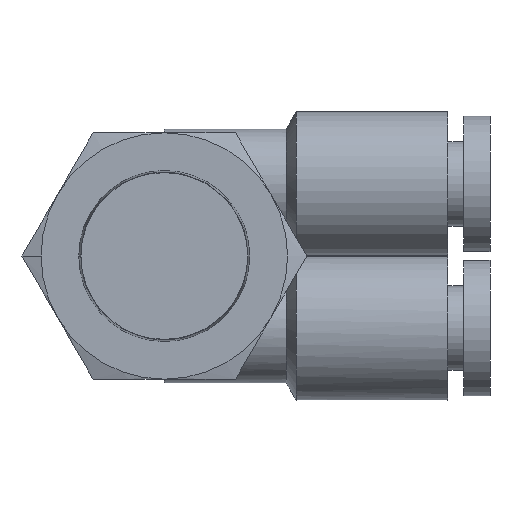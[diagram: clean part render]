
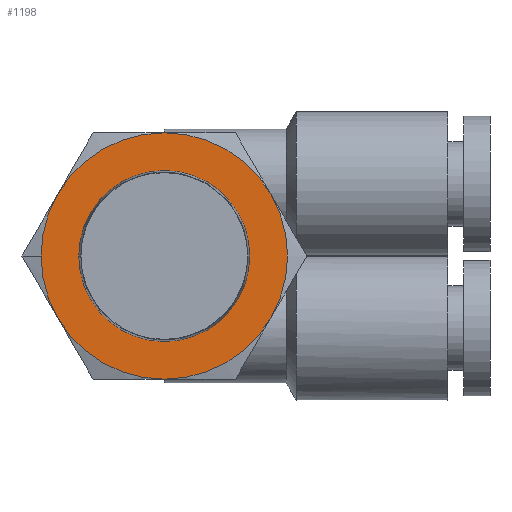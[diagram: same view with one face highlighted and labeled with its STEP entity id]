
A CAD part, front view. The second image highlights one B-rep face of the part: STEP entity #1198.
In plain terms, the highlighted planar face has unit normal (0, -1, 0).
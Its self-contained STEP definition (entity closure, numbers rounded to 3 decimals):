
#87 = EDGE_LOOP ( 'NONE', ( #243, #3224, #836, #3993, #1415, #2664, #3033 ) ) ;
#88 = CARTESIAN_POINT ( 'NONE',  ( 0., 0., 0. ) ) ;
#144 = DIRECTION ( 'NONE',  ( 0., -1., 0. ) ) ;
#171 = EDGE_CURVE ( 'NONE', #426, #1619, #2271, .T. ) ;
#243 = ORIENTED_EDGE ( 'NONE', *, *, #3518, .T. ) ;
#252 = AXIS2_PLACEMENT_3D ( 'NONE', #756, #1179, #1132 ) ;
#257 = VERTEX_POINT ( 'NONE', #3490 ) ;
#327 = PLANE ( 'NONE',  #4096 ) ;
#329 = CARTESIAN_POINT ( 'NONE',  ( 0., 0., 0. ) ) ;
#348 = VERTEX_POINT ( 'NONE', #372 ) ;
#355 = DIRECTION ( 'NONE',  ( 1., 0., 0. ) ) ;
#372 = CARTESIAN_POINT ( 'NONE',  ( 6.062, 0., 3.5 ) ) ;
#426 = VERTEX_POINT ( 'NONE', #3983 ) ;
#552 = ORIENTED_EDGE ( 'NONE', *, *, #171, .F. ) ;
#557 = EDGE_CURVE ( 'NONE', #348, #1346, #1144, .T. ) ;
#595 = CIRCLE ( 'NONE', #3828, 7. ) ;
#756 = CARTESIAN_POINT ( 'NONE',  ( 0., 0., 0. ) ) ;
#836 = ORIENTED_EDGE ( 'NONE', *, *, #557, .T. ) ;
#900 = DIRECTION ( 'NONE',  ( 1., 0., 0. ) ) ;
#1071 = CARTESIAN_POINT ( 'NONE',  ( -6.062, 0., -3.5 ) ) ;
#1132 = DIRECTION ( 'NONE',  ( 1., 0., 0. ) ) ;
#1144 = CIRCLE ( 'NONE', #1366, 7. ) ;
#1179 = DIRECTION ( 'NONE',  ( 0., -1., 0. ) ) ;
#1198 = ADVANCED_FACE ( 'NONE', ( #1966, #3396 ), #327, .F. ) ;
#1201 = DIRECTION ( 'NONE',  ( 0., -1., 0. ) ) ;
#1217 = AXIS2_PLACEMENT_3D ( 'NONE', #2440, #2811, #2155 ) ;
#1346 = VERTEX_POINT ( 'NONE', #1868 ) ;
#1366 = AXIS2_PLACEMENT_3D ( 'NONE', #3008, #4069, #355 ) ;
#1373 = DIRECTION ( 'NONE',  ( 0., -1., 0. ) ) ;
#1380 = AXIS2_PLACEMENT_3D ( 'NONE', #1833, #144, #2838 ) ;
#1410 = EDGE_CURVE ( 'NONE', #1753, #4135, #4232, .T. ) ;
#1412 = CARTESIAN_POINT ( 'NONE',  ( 0., 0., -7. ) ) ;
#1415 = ORIENTED_EDGE ( 'NONE', *, *, #4286, .T. ) ;
#1438 = CARTESIAN_POINT ( 'NONE',  ( 0., 0., 0. ) ) ;
#1503 = DIRECTION ( 'NONE',  ( 0., -1., 0. ) ) ;
#1521 = CIRCLE ( 'NONE', #3684, 7. ) ;
#1523 = CARTESIAN_POINT ( 'NONE',  ( 0., 0., 0. ) ) ;
#1619 = VERTEX_POINT ( 'NONE', #2272 ) ;
#1636 = VERTEX_POINT ( 'NONE', #2317 ) ;
#1753 = VERTEX_POINT ( 'NONE', #2749 ) ;
#1833 = CARTESIAN_POINT ( 'NONE',  ( 0., 0., 0. ) ) ;
#1868 = CARTESIAN_POINT ( 'NONE',  ( 0., 0., 7. ) ) ;
#1901 = EDGE_CURVE ( 'NONE', #4135, #4230, #3011, .T. ) ;
#1904 = ORIENTED_EDGE ( 'NONE', *, *, #2092, .F. ) ;
#1966 = FACE_OUTER_BOUND ( 'NONE', #87, .T. ) ;
#2092 = EDGE_CURVE ( 'NONE', #1619, #426, #4036, .T. ) ;
#2155 = DIRECTION ( 'NONE',  ( 1., 0., 0. ) ) ;
#2271 = CIRCLE ( 'NONE', #2830, 4.1 ) ;
#2272 = CARTESIAN_POINT ( 'NONE',  ( 4.1, 0., 0. ) ) ;
#2290 = DIRECTION ( 'NONE',  ( 0., -1., 0. ) ) ;
#2301 = CARTESIAN_POINT ( 'NONE',  ( 7., 0., 0. ) ) ;
#2315 = AXIS2_PLACEMENT_3D ( 'NONE', #3910, #1201, #900 ) ;
#2317 = CARTESIAN_POINT ( 'NONE',  ( 6.062, 0., -3.5 ) ) ;
#2371 = AXIS2_PLACEMENT_3D ( 'NONE', #1523, #2290, #4238 ) ;
#2440 = CARTESIAN_POINT ( 'NONE',  ( 0., 0., 0. ) ) ;
#2664 = ORIENTED_EDGE ( 'NONE', *, *, #1410, .T. ) ;
#2688 = DIRECTION ( 'NONE',  ( 0., 1., 0. ) ) ;
#2749 = CARTESIAN_POINT ( 'NONE',  ( -7., 0., 0. ) ) ;
#2785 = DIRECTION ( 'NONE',  ( 0., -1., 0. ) ) ;
#2811 = DIRECTION ( 'NONE',  ( 0., -1., 0. ) ) ;
#2830 = AXIS2_PLACEMENT_3D ( 'NONE', #88, #2785, #3791 ) ;
#2838 = DIRECTION ( 'NONE',  ( 1., 0., 0. ) ) ;
#3008 = CARTESIAN_POINT ( 'NONE',  ( 0., 0., 0. ) ) ;
#3011 = CIRCLE ( 'NONE', #2315, 7. ) ;
#3033 = ORIENTED_EDGE ( 'NONE', *, *, #1901, .T. ) ;
#3213 = CIRCLE ( 'NONE', #1380, 7. ) ;
#3224 = ORIENTED_EDGE ( 'NONE', *, *, #3603, .T. ) ;
#3396 = FACE_BOUND ( 'NONE', #3874, .T. ) ;
#3398 = DIRECTION ( 'NONE',  ( 1., 0., 0. ) ) ;
#3490 = CARTESIAN_POINT ( 'NONE',  ( -6.062, 0., 3.5 ) ) ;
#3518 = EDGE_CURVE ( 'NONE', #4230, #1636, #595, .T. ) ;
#3603 = EDGE_CURVE ( 'NONE', #1636, #348, #1521, .T. ) ;
#3684 = AXIS2_PLACEMENT_3D ( 'NONE', #1438, #1503, #4151 ) ;
#3694 = CIRCLE ( 'NONE', #2371, 7. ) ;
#3791 = DIRECTION ( 'NONE',  ( 1., 0., 0. ) ) ;
#3828 = AXIS2_PLACEMENT_3D ( 'NONE', #329, #1373, #3398 ) ;
#3874 = EDGE_LOOP ( 'NONE', ( #1904, #552 ) ) ;
#3910 = CARTESIAN_POINT ( 'NONE',  ( 0., 0., 0. ) ) ;
#3983 = CARTESIAN_POINT ( 'NONE',  ( -4.1, 0., 0. ) ) ;
#3993 = ORIENTED_EDGE ( 'NONE', *, *, #4337, .T. ) ;
#4022 = DIRECTION ( 'NONE',  ( 1., 0., 0. ) ) ;
#4036 = CIRCLE ( 'NONE', #252, 4.1 ) ;
#4069 = DIRECTION ( 'NONE',  ( 0., -1., 0. ) ) ;
#4096 = AXIS2_PLACEMENT_3D ( 'NONE', #2301, #2688, #4022 ) ;
#4135 = VERTEX_POINT ( 'NONE', #1071 ) ;
#4151 = DIRECTION ( 'NONE',  ( 1., 0., 0. ) ) ;
#4230 = VERTEX_POINT ( 'NONE', #1412 ) ;
#4232 = CIRCLE ( 'NONE', #1217, 7. ) ;
#4238 = DIRECTION ( 'NONE',  ( 1., 0., 0. ) ) ;
#4286 = EDGE_CURVE ( 'NONE', #257, #1753, #3213, .T. ) ;
#4337 = EDGE_CURVE ( 'NONE', #1346, #257, #3694, .T. ) ;
